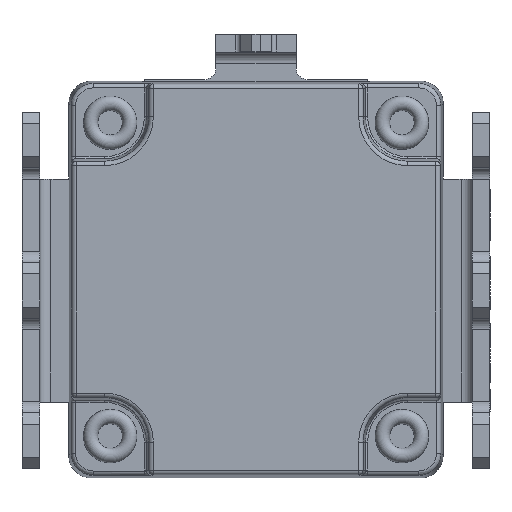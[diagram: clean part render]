
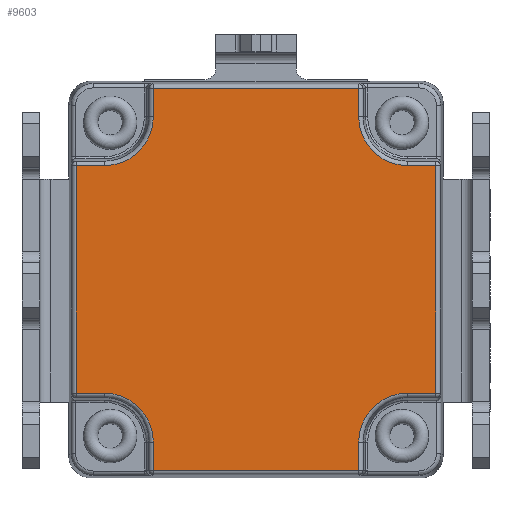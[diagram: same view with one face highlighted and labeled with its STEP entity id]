
A CAD part, top view. The second image highlights one B-rep face of the part: STEP entity #9603.
In plain terms, the highlighted planar face has unit normal (0, 0, 1).
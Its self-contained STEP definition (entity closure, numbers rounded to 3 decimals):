
#384=CIRCLE('',#10216,2.194);
#385=CIRCLE('',#10217,2.194);
#386=CIRCLE('',#10218,2.194);
#387=CIRCLE('',#10219,2.194);
#1896=ORIENTED_EDGE('',*,*,#3208,.T.);
#1897=ORIENTED_EDGE('',*,*,#3209,.T.);
#1898=ORIENTED_EDGE('',*,*,#3210,.T.);
#1899=ORIENTED_EDGE('',*,*,#3204,.T.);
#1900=ORIENTED_EDGE('',*,*,#3180,.T.);
#1901=ORIENTED_EDGE('',*,*,#3173,.T.);
#1902=ORIENTED_EDGE('',*,*,#3211,.T.);
#1903=ORIENTED_EDGE('',*,*,#3212,.T.);
#1904=ORIENTED_EDGE('',*,*,#3213,.T.);
#1905=ORIENTED_EDGE('',*,*,#3214,.T.);
#1906=ORIENTED_EDGE('',*,*,#3215,.T.);
#1907=ORIENTED_EDGE('',*,*,#3162,.T.);
#1908=ORIENTED_EDGE('',*,*,#3141,.T.);
#1909=ORIENTED_EDGE('',*,*,#3134,.T.);
#1910=ORIENTED_EDGE('',*,*,#3216,.T.);
#1911=ORIENTED_EDGE('',*,*,#3217,.T.);
#3134=EDGE_CURVE('',#3750,#3878,#4477,.T.);
#3141=EDGE_CURVE('',#3796,#3750,#4483,.T.);
#3162=EDGE_CURVE('',#3891,#3796,#4501,.T.);
#3173=EDGE_CURVE('',#3810,#3902,#4503,.T.);
#3180=EDGE_CURVE('',#3848,#3810,#4509,.T.);
#3204=EDGE_CURVE('',#3917,#3848,#4529,.T.);
#3208=EDGE_CURVE('',#3874,#3920,#4532,.T.);
#3209=EDGE_CURVE('',#3920,#3921,#4533,.T.);
#3210=EDGE_CURVE('',#3921,#3917,#384,.T.);
#3211=EDGE_CURVE('',#3902,#3922,#385,.T.);
#3212=EDGE_CURVE('',#3922,#3898,#4534,.T.);
#3213=EDGE_CURVE('',#3898,#3893,#4535,.T.);
#3214=EDGE_CURVE('',#3893,#3923,#4536,.T.);
#3215=EDGE_CURVE('',#3923,#3891,#386,.T.);
#3216=EDGE_CURVE('',#3878,#3924,#387,.T.);
#3217=EDGE_CURVE('',#3924,#3874,#4537,.T.);
#3750=VERTEX_POINT('',#13339);
#3796=VERTEX_POINT('',#13583);
#3810=VERTEX_POINT('',#13621);
#3848=VERTEX_POINT('',#13869);
#3874=VERTEX_POINT('',#14096);
#3878=VERTEX_POINT('',#14105);
#3891=VERTEX_POINT('',#14158);
#3893=VERTEX_POINT('',#14164);
#3898=VERTEX_POINT('',#14176);
#3902=VERTEX_POINT('',#14185);
#3917=VERTEX_POINT('',#14244);
#3920=VERTEX_POINT('',#14254);
#3921=VERTEX_POINT('',#14258);
#3922=VERTEX_POINT('',#14261);
#3923=VERTEX_POINT('',#14265);
#3924=VERTEX_POINT('',#14268);
#4477=LINE('',#14106,#5044);
#4483=LINE('',#14120,#5050);
#4501=LINE('',#14161,#5068);
#4503=LINE('',#14186,#5070);
#4509=LINE('',#14200,#5076);
#4529=LINE('',#14247,#5096);
#4532=LINE('',#14255,#5099);
#4533=LINE('',#14257,#5100);
#4534=LINE('',#14262,#5101);
#4535=LINE('',#14263,#5102);
#4536=LINE('',#14264,#5103);
#4537=LINE('',#14269,#5104);
#5044=VECTOR('',#11654,1000.);
#5050=VECTOR('',#11670,1000.);
#5068=VECTOR('',#11712,1000.);
#5070=VECTOR('',#11740,1000.);
#5076=VECTOR('',#11756,1000.);
#5096=VECTOR('',#11804,1000.);
#5099=VECTOR('',#11813,1000.);
#5100=VECTOR('',#11816,1000.);
#5101=VECTOR('',#11821,1000.);
#5102=VECTOR('',#11822,1000.);
#5103=VECTOR('',#11823,1000.);
#5104=VECTOR('',#11828,1000.);
#5499=EDGE_LOOP('',(#1896,#1897,#1898,#1899,#1900,#1901,#1902,#1903,#1904,
#1905,#1906,#1907,#1908,#1909,#1910,#1911));
#6012=FACE_BOUND('',#5499,.T.);
#6358=PLANE('',#10215);
#9603=ADVANCED_FACE('',(#6012),#6358,.F.);
#10215=AXIS2_PLACEMENT_3D('',#14256,#11814,#11815);
#10216=AXIS2_PLACEMENT_3D('',#14259,#11817,#11818);
#10217=AXIS2_PLACEMENT_3D('',#14260,#11819,#11820);
#10218=AXIS2_PLACEMENT_3D('',#14266,#11824,#11825);
#10219=AXIS2_PLACEMENT_3D('',#14267,#11826,#11827);
#11654=DIRECTION('',(1.,0.,0.));
#11670=DIRECTION('',(0.,-1.,0.));
#11712=DIRECTION('',(-1.,0.,0.));
#11740=DIRECTION('',(-1.,0.,0.));
#11756=DIRECTION('',(0.,1.,0.));
#11804=DIRECTION('',(1.,0.,0.));
#11813=DIRECTION('',(1.,0.,0.));
#11814=DIRECTION('',(0.,0.,-1.));
#11815=DIRECTION('',(1.,0.,0.));
#11816=DIRECTION('',(0.,1.,0.));
#11817=DIRECTION('',(0.,0.,-1.));
#11818=DIRECTION('',(-1.,0.,0.));
#11819=DIRECTION('',(0.,0.,-1.));
#11820=DIRECTION('',(0.,-1.,0.));
#11821=DIRECTION('',(0.,1.,0.));
#11822=DIRECTION('',(-1.,0.,0.));
#11823=DIRECTION('',(0.,-1.,0.));
#11824=DIRECTION('',(0.,0.,-1.));
#11825=DIRECTION('',(1.,0.,0.));
#11826=DIRECTION('',(0.,0.,-1.));
#11827=DIRECTION('',(0.,1.,0.));
#11828=DIRECTION('',(0.,-1.,0.));
#13339=CARTESIAN_POINT('',(-8.067,-4.606,4.));
#13583=CARTESIAN_POINT('',(-8.067,5.606,4.));
#13621=CARTESIAN_POINT('',(8.067,5.606,4.));
#13869=CARTESIAN_POINT('',(8.067,-4.606,4.));
#14096=CARTESIAN_POINT('',(-4.606,-8.067,4.));
#14105=CARTESIAN_POINT('',(-6.8,-4.606,4.));
#14106=CARTESIAN_POINT('',(-8.167,-4.606,4.));
#14120=CARTESIAN_POINT('',(-8.067,5.606,4.));
#14158=CARTESIAN_POINT('',(-6.8,5.606,4.));
#14161=CARTESIAN_POINT('',(-6.8,5.606,4.));
#14164=CARTESIAN_POINT('',(-4.606,9.067,4.));
#14176=CARTESIAN_POINT('',(4.606,9.067,4.));
#14185=CARTESIAN_POINT('',(6.8,5.606,4.));
#14186=CARTESIAN_POINT('',(8.067,5.606,4.));
#14200=CARTESIAN_POINT('',(8.067,-4.606,4.));
#14244=CARTESIAN_POINT('',(6.8,-4.606,4.));
#14247=CARTESIAN_POINT('',(6.7,-4.606,4.));
#14254=CARTESIAN_POINT('',(4.606,-8.067,4.));
#14255=CARTESIAN_POINT('',(-4.606,-8.067,4.));
#14256=CARTESIAN_POINT('',(0.,0.5,4.));
#14257=CARTESIAN_POINT('',(4.606,-8.167,4.));
#14258=CARTESIAN_POINT('',(4.606,-6.8,4.));
#14259=CARTESIAN_POINT('',(6.8,-6.8,4.));
#14260=CARTESIAN_POINT('',(6.8,7.8,4.));
#14261=CARTESIAN_POINT('',(4.606,7.8,4.));
#14262=CARTESIAN_POINT('',(4.606,7.7,4.));
#14263=CARTESIAN_POINT('',(4.606,9.067,4.));
#14264=CARTESIAN_POINT('',(-4.606,9.067,4.));
#14265=CARTESIAN_POINT('',(-4.606,7.8,4.));
#14266=CARTESIAN_POINT('',(-6.8,7.8,4.));
#14267=CARTESIAN_POINT('',(-6.8,-6.8,4.));
#14268=CARTESIAN_POINT('',(-4.606,-6.8,4.));
#14269=CARTESIAN_POINT('',(-4.606,-6.8,4.));
